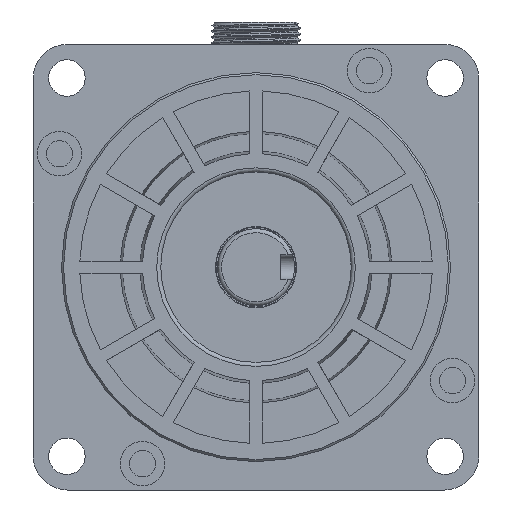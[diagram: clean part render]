
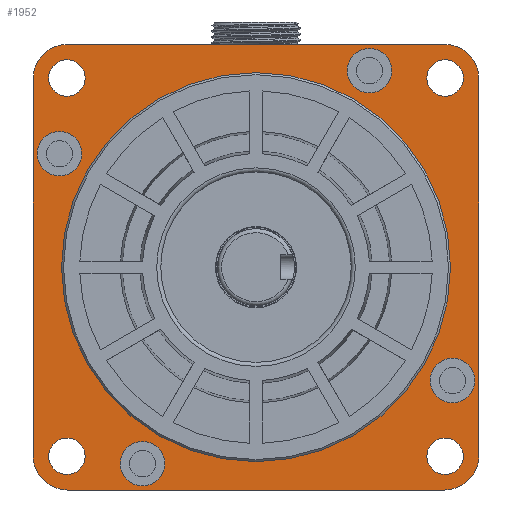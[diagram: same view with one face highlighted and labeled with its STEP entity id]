
A CAD part, front view. The second image highlights one B-rep face of the part: STEP entity #1952.
In plain terms, the highlighted planar face has unit normal (0, -1, 0).
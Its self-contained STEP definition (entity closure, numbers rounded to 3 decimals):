
#407=LINE('',#14171,#865);
#491=LINE('',#14543,#949);
#492=LINE('',#14544,#950);
#493=LINE('',#14548,#951);
#865=VECTOR('',#9242,1.);
#949=VECTOR('',#9566,1.);
#950=VECTOR('',#9567,1.);
#951=VECTOR('',#9570,1.);
#1952=ADVANCED_FACE('',(#2396,#2397,#2398,#2399,#2400,#2401,#2402,#2403,
#2404,#2405),#2201,.T.);
#2201=PLANE('',#7720);
#2396=FACE_BOUND('',#2831,.T.);
#2397=FACE_BOUND('',#2832,.T.);
#2398=FACE_BOUND('',#2833,.T.);
#2399=FACE_BOUND('',#2834,.T.);
#2400=FACE_BOUND('',#2835,.T.);
#2401=FACE_BOUND('',#2836,.T.);
#2402=FACE_BOUND('',#2837,.T.);
#2403=FACE_BOUND('',#2838,.T.);
#2404=FACE_BOUND('',#2839,.T.);
#2405=FACE_BOUND('',#2840,.T.);
#2831=EDGE_LOOP('',(#4409));
#2832=EDGE_LOOP('',(#4410));
#2833=EDGE_LOOP('',(#4411));
#2834=EDGE_LOOP('',(#4412));
#2835=EDGE_LOOP('',(#4413,#4414,#4415,#4416,#4417,#4418,#4419,#4420));
#2836=EDGE_LOOP('',(#4421));
#2837=EDGE_LOOP('',(#4422));
#2838=EDGE_LOOP('',(#4423));
#2839=EDGE_LOOP('',(#4424));
#2840=EDGE_LOOP('',(#4425));
#4409=ORIENTED_EDGE('',*,*,#6485,.T.);
#4410=ORIENTED_EDGE('',*,*,#6486,.T.);
#4411=ORIENTED_EDGE('',*,*,#6487,.T.);
#4412=ORIENTED_EDGE('',*,*,#6488,.T.);
#4413=ORIENTED_EDGE('',*,*,#6489,.T.);
#4414=ORIENTED_EDGE('',*,*,#6490,.F.);
#4415=ORIENTED_EDGE('',*,*,#6224,.T.);
#4416=ORIENTED_EDGE('',*,*,#6317,.F.);
#4417=ORIENTED_EDGE('',*,*,#6220,.T.);
#4418=ORIENTED_EDGE('',*,*,#6491,.F.);
#4419=ORIENTED_EDGE('',*,*,#6492,.T.);
#4420=ORIENTED_EDGE('',*,*,#6493,.F.);
#4421=ORIENTED_EDGE('',*,*,#6227,.T.);
#4422=ORIENTED_EDGE('',*,*,#6226,.T.);
#4423=ORIENTED_EDGE('',*,*,#6484,.F.);
#4424=ORIENTED_EDGE('',*,*,#6494,.T.);
#4425=ORIENTED_EDGE('',*,*,#6495,.T.);
#5390=VERTEX_POINT('',#13764);
#5391=VERTEX_POINT('',#13765);
#5392=VERTEX_POINT('',#13770);
#5393=VERTEX_POINT('',#13772);
#5394=VERTEX_POINT('',#13776);
#5395=VERTEX_POINT('',#13779);
#5560=VERTEX_POINT('',#14530);
#5561=VERTEX_POINT('',#14533);
#5562=VERTEX_POINT('',#14535);
#5563=VERTEX_POINT('',#14537);
#5564=VERTEX_POINT('',#14539);
#5565=VERTEX_POINT('',#14541);
#5566=VERTEX_POINT('',#14542);
#5567=VERTEX_POINT('',#14545);
#5568=VERTEX_POINT('',#14547);
#5569=VERTEX_POINT('',#14550);
#5570=VERTEX_POINT('',#14552);
#6220=EDGE_CURVE('',#5390,#5391,#6902,.T.);
#6224=EDGE_CURVE('',#5393,#5392,#6903,.T.);
#6226=EDGE_CURVE('',#5394,#5394,#6904,.T.);
#6227=EDGE_CURVE('',#5395,#5395,#6905,.T.);
#6317=EDGE_CURVE('',#5390,#5392,#407,.T.);
#6484=EDGE_CURVE('',#5560,#5560,#7001,.T.);
#6485=EDGE_CURVE('',#5561,#5561,#7002,.T.);
#6486=EDGE_CURVE('',#5562,#5562,#7003,.T.);
#6487=EDGE_CURVE('',#5563,#5563,#7004,.T.);
#6488=EDGE_CURVE('',#5564,#5564,#7005,.T.);
#6489=EDGE_CURVE('',#5565,#5566,#7006,.T.);
#6490=EDGE_CURVE('',#5393,#5566,#491,.T.);
#6491=EDGE_CURVE('',#5567,#5391,#492,.T.);
#6492=EDGE_CURVE('',#5567,#5568,#7007,.T.);
#6493=EDGE_CURVE('',#5565,#5568,#493,.T.);
#6494=EDGE_CURVE('',#5569,#5569,#7008,.T.);
#6495=EDGE_CURVE('',#5570,#5570,#7009,.T.);
#6902=CIRCLE('',#7534,8.5);
#6903=CIRCLE('',#7536,8.5);
#6904=CIRCLE('',#7538,5.5);
#6905=CIRCLE('',#7540,5.5);
#7001=CIRCLE('',#7710,48.);
#7002=CIRCLE('',#7712,4.5);
#7003=CIRCLE('',#7713,4.5);
#7004=CIRCLE('',#7714,4.5);
#7005=CIRCLE('',#7715,4.5);
#7006=CIRCLE('',#7716,8.5);
#7007=CIRCLE('',#7717,8.5);
#7008=CIRCLE('',#7718,5.5);
#7009=CIRCLE('',#7719,5.5);
#7534=AXIS2_PLACEMENT_3D('',#13763,#9071,#9072);
#7536=AXIS2_PLACEMENT_3D('',#13771,#9078,#9079);
#7538=AXIS2_PLACEMENT_3D('',#13775,#9083,#9084);
#7540=AXIS2_PLACEMENT_3D('',#13778,#9087,#9088);
#7710=AXIS2_PLACEMENT_3D('',#14529,#9552,#9553);
#7712=AXIS2_PLACEMENT_3D('',#14532,#9556,#9557);
#7713=AXIS2_PLACEMENT_3D('',#14534,#9558,#9559);
#7714=AXIS2_PLACEMENT_3D('',#14536,#9560,#9561);
#7715=AXIS2_PLACEMENT_3D('',#14538,#9562,#9563);
#7716=AXIS2_PLACEMENT_3D('',#14540,#9564,#9565);
#7717=AXIS2_PLACEMENT_3D('',#14546,#9568,#9569);
#7718=AXIS2_PLACEMENT_3D('',#14549,#9571,#9572);
#7719=AXIS2_PLACEMENT_3D('',#14551,#9573,#9574);
#7720=AXIS2_PLACEMENT_3D('',#14553,#9575,#9576);
#9071=DIRECTION('',(0.,-1.,0.));
#9072=DIRECTION('',(-1.,0.,0.));
#9078=DIRECTION('',(0.,-1.,0.));
#9079=DIRECTION('',(-1.,0.,0.));
#9083=DIRECTION('',(0.,1.,0.));
#9084=DIRECTION('',(-1.,0.,0.));
#9087=DIRECTION('',(0.,1.,0.));
#9088=DIRECTION('',(-1.,0.,0.));
#9242=DIRECTION('',(0.,0.,1.));
#9552=DIRECTION('',(0.,-1.,0.));
#9553=DIRECTION('',(-1.,0.,0.));
#9556=DIRECTION('',(0.,1.,0.));
#9557=DIRECTION('',(-1.,0.,0.));
#9558=DIRECTION('',(0.,1.,0.));
#9559=DIRECTION('',(-1.,0.,0.));
#9560=DIRECTION('',(0.,1.,0.));
#9561=DIRECTION('',(-1.,0.,0.));
#9562=DIRECTION('',(0.,1.,0.));
#9563=DIRECTION('',(-1.,0.,0.));
#9564=DIRECTION('',(0.,-1.,0.));
#9565=DIRECTION('',(-1.,0.,0.));
#9566=DIRECTION('',(1.,0.,0.));
#9567=DIRECTION('',(-1.,0.,0.));
#9568=DIRECTION('',(0.,-1.,0.));
#9569=DIRECTION('',(-1.,0.,0.));
#9570=DIRECTION('',(0.,0.,-1.));
#9571=DIRECTION('',(0.,1.,0.));
#9572=DIRECTION('',(-1.,0.,0.));
#9573=DIRECTION('',(0.,1.,0.));
#9574=DIRECTION('',(-1.,0.,0.));
#9575=DIRECTION('',(0.,-1.,0.));
#9576=DIRECTION('',(1.,0.,0.));
#13763=CARTESIAN_POINT('',(-242.562,-291.466,-252.534));
#13764=CARTESIAN_POINT('',(-251.062,-291.466,-252.534));
#13765=CARTESIAN_POINT('',(-242.562,-291.466,-261.034));
#13770=CARTESIAN_POINT('',(-251.062,-291.466,-159.534));
#13771=CARTESIAN_POINT('',(-242.562,-291.466,-159.534));
#13772=CARTESIAN_POINT('',(-242.562,-291.466,-151.034));
#13775=CARTESIAN_POINT('',(-244.56,-291.466,-178.034));
#13776=CARTESIAN_POINT('',(-250.06,-291.466,-178.034));
#13778=CARTESIAN_POINT('',(-224.062,-291.466,-254.531));
#13779=CARTESIAN_POINT('',(-229.562,-291.466,-254.531));
#14171=CARTESIAN_POINT('',(-251.062,-291.466,-206.034));
#14529=CARTESIAN_POINT('',(-196.062,-291.466,-206.034));
#14530=CARTESIAN_POINT('',(-244.062,-291.466,-206.034));
#14532=CARTESIAN_POINT('',(-149.393,-291.466,-159.365));
#14533=CARTESIAN_POINT('',(-153.893,-291.466,-159.365));
#14534=CARTESIAN_POINT('',(-242.732,-291.466,-159.365));
#14535=CARTESIAN_POINT('',(-247.232,-291.466,-159.365));
#14536=CARTESIAN_POINT('',(-242.732,-291.466,-252.703));
#14537=CARTESIAN_POINT('',(-247.232,-291.466,-252.703));
#14538=CARTESIAN_POINT('',(-149.393,-291.466,-252.703));
#14539=CARTESIAN_POINT('',(-153.893,-291.466,-252.703));
#14540=CARTESIAN_POINT('',(-149.562,-291.466,-159.534));
#14541=CARTESIAN_POINT('',(-141.062,-291.466,-159.534));
#14542=CARTESIAN_POINT('',(-149.562,-291.466,-151.034));
#14543=CARTESIAN_POINT('',(-196.062,-291.466,-151.034));
#14544=CARTESIAN_POINT('',(-196.062,-291.466,-261.034));
#14545=CARTESIAN_POINT('',(-149.562,-291.466,-261.034));
#14546=CARTESIAN_POINT('',(-149.562,-291.466,-252.534));
#14547=CARTESIAN_POINT('',(-141.062,-291.466,-252.534));
#14548=CARTESIAN_POINT('',(-141.062,-291.466,-206.034));
#14549=CARTESIAN_POINT('',(-147.565,-291.466,-234.034));
#14550=CARTESIAN_POINT('',(-153.065,-291.466,-234.034));
#14551=CARTESIAN_POINT('',(-168.062,-291.466,-157.536));
#14552=CARTESIAN_POINT('',(-173.562,-291.466,-157.536));
#14553=CARTESIAN_POINT('',(-196.062,-291.466,-206.034));
